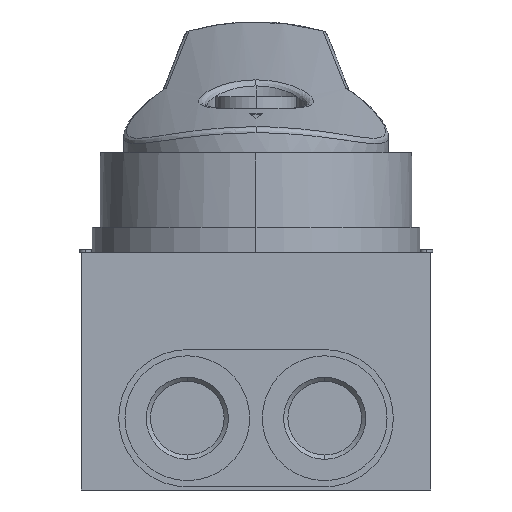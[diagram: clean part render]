
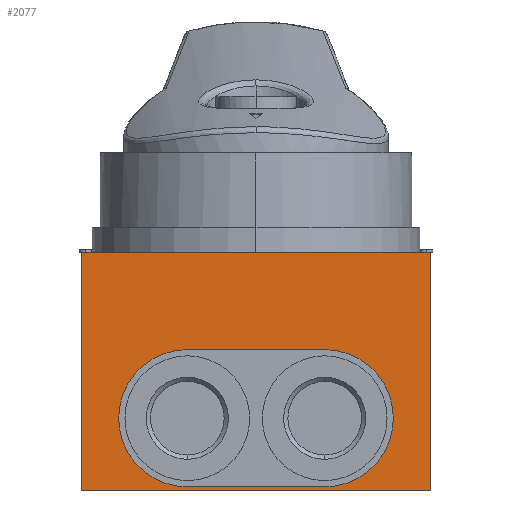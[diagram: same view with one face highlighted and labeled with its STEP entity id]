
A CAD part, left-side view. The second image highlights one B-rep face of the part: STEP entity #2077.
In plain terms, the highlighted planar face has unit normal (-1, 0, 0).
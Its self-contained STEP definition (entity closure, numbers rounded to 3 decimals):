
#18=DIRECTION('',(0.,-1.,0.));
#19=VECTOR('',#18,56.);
#20=CARTESIAN_POINT('',(-28.,28.,-19.));
#21=LINE('',#20,#19);
#111=DIRECTION('',(0.,0.,1.));
#112=VECTOR('',#111,38.);
#113=CARTESIAN_POINT('',(-28.,28.,-19.));
#114=LINE('',#113,#112);
#118=CARTESIAN_POINT('',(-28.,11.,-7.5));
#119=DIRECTION('',(-1.,0.,0.));
#120=DIRECTION('',(0.,0.,1.));
#121=AXIS2_PLACEMENT_3D('',#118,#119,#120);
#126=DIRECTION('',(0.,-1.,0.));
#127=VECTOR('',#126,22.);
#128=CARTESIAN_POINT('',(-28.,11.,-18.5));
#129=LINE('',#128,#127);
#133=CARTESIAN_POINT('',(-28.,-11.,-7.5));
#134=DIRECTION('',(-1.,0.,0.));
#135=DIRECTION('',(0.,0.,-1.));
#136=AXIS2_PLACEMENT_3D('',#133,#134,#135);
#141=DIRECTION('',(0.,1.,0.));
#142=VECTOR('',#141,22.);
#143=CARTESIAN_POINT('',(-28.,-11.,3.5));
#144=LINE('',#143,#142);
#242=DIRECTION('',(0.,0.,1.));
#243=VECTOR('',#242,38.);
#244=CARTESIAN_POINT('',(-28.,-28.,-19.));
#245=LINE('',#244,#243);
#647=DIRECTION('',(0.,-1.,0.));
#648=VECTOR('',#647,56.);
#649=CARTESIAN_POINT('',(-28.,28.,19.));
#650=LINE('',#649,#648);
#1729=CARTESIAN_POINT('',(-28.,28.,-19.));
#1730=CARTESIAN_POINT('',(-28.,-28.,-19.));
#1731=VERTEX_POINT('',#1729);
#1732=VERTEX_POINT('',#1730);
#1737=CARTESIAN_POINT('',(-28.,28.,19.));
#1738=CARTESIAN_POINT('',(-28.,-28.,19.));
#1739=VERTEX_POINT('',#1737);
#1740=VERTEX_POINT('',#1738);
#1941=CARTESIAN_POINT('',(-28.,11.,3.5));
#1942=CARTESIAN_POINT('',(-28.,11.,-18.5));
#1943=VERTEX_POINT('',#1941);
#1944=VERTEX_POINT('',#1942);
#1945=CARTESIAN_POINT('',(-28.,-11.,-18.5));
#1946=VERTEX_POINT('',#1945);
#1947=CARTESIAN_POINT('',(-28.,-11.,3.5));
#1948=VERTEX_POINT('',#1947);
#2053=CARTESIAN_POINT('',(-28.,28.,-19.));
#2054=DIRECTION('',(-1.,0.,0.));
#2055=DIRECTION('',(0.,-1.,0.));
#2056=AXIS2_PLACEMENT_3D('',#2053,#2054,#2055);
#2057=PLANE('',#2056);
#2058=ORIENTED_EDGE('',*,*,#2018,.F.);
#2060=ORIENTED_EDGE('',*,*,#2059,.T.);
#2062=ORIENTED_EDGE('',*,*,#2061,.T.);
#2064=ORIENTED_EDGE('',*,*,#2063,.F.);
#2065=EDGE_LOOP('',(#2058,#2060,#2062,#2064));
#2066=FACE_OUTER_BOUND('',#2065,.F.);
#2068=ORIENTED_EDGE('',*,*,#2067,.T.);
#2070=ORIENTED_EDGE('',*,*,#2069,.T.);
#2072=ORIENTED_EDGE('',*,*,#2071,.T.);
#2074=ORIENTED_EDGE('',*,*,#2073,.T.);
#2075=EDGE_LOOP('',(#2068,#2070,#2072,#2074));
#2076=FACE_BOUND('',#2075,.F.);
#2077=ADVANCED_FACE('',(#2066,#2076),#2057,.T.);
#122=CIRCLE('',#121,11.);
#137=CIRCLE('',#136,11.);
#2018=EDGE_CURVE('',#1731,#1732,#21,.T.);
#2059=EDGE_CURVE('',#1731,#1739,#114,.T.);
#2061=EDGE_CURVE('',#1739,#1740,#650,.T.);
#2063=EDGE_CURVE('',#1732,#1740,#245,.T.);
#2067=EDGE_CURVE('',#1943,#1944,#122,.T.);
#2069=EDGE_CURVE('',#1944,#1946,#129,.T.);
#2071=EDGE_CURVE('',#1946,#1948,#137,.T.);
#2073=EDGE_CURVE('',#1948,#1943,#144,.T.);
